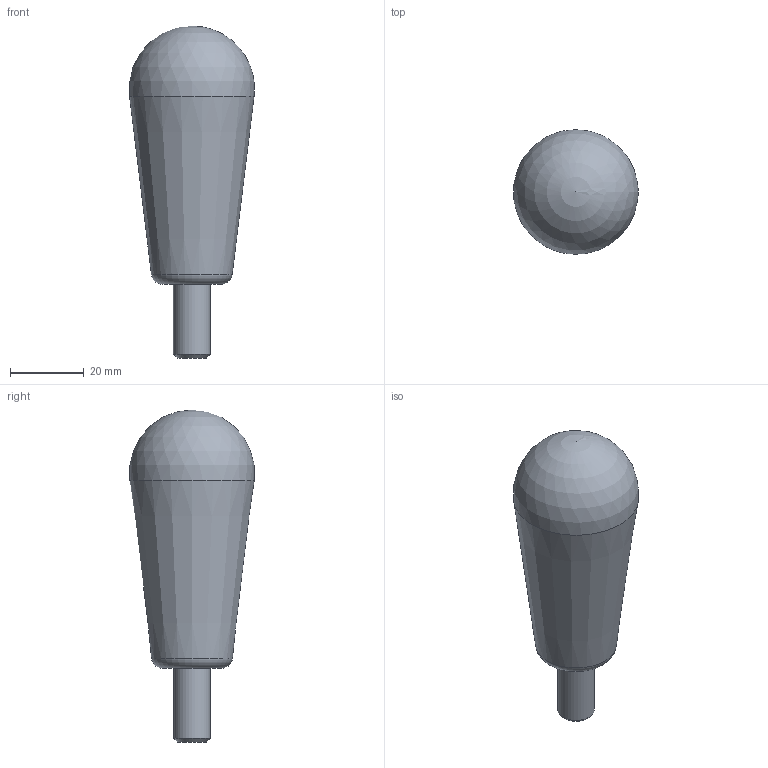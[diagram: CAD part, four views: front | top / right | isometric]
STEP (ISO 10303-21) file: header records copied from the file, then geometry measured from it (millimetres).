
FILE_DESCRIPTION( ('This file contains a STEP AP42 implementation' ,'as created by ZW3D STEP Interface translator.') ,'2;1' );
FILE_NAME( 'Galka stozkowa B34.S.stp' ,'26 4 3.133210', (''), ('ZWCAD Software Co.'), 'Version 1.0', 'ZW3D to STEP translator', '' );
FILE_SCHEMA(('AP242_MANAGED_MODEL_BASED_3D_ENGINEERING_MIM_LF { 1 0 10303 442 1 1 4 }'));
Length unit declared in the file: millimetre
Products named in the file (1): 0
Bounding box: 33.85 x 33.76 x 90 mm (x, y, z)
Volume: 44381.9 mm3; surface area: 10392.9 mm2
Topology: 2 solids, 2 shells, 24 faces, 52 edges, 34 vertices
Faces by surface type: plane 18, cone 2, cylinder 2, torus 1, sphere 1
Full cylindrical faces by diameter (mm): 10 x2
Entity records: 699 total; most frequent: DIRECTION 112, CARTESIAN_POINT 109, ORIENTED_EDGE 100, EDGE_CURVE 50, VECTOR 40, LINE 40, AXIS2_PLACEMENT_3D 36, VERTEX_POINT 33
